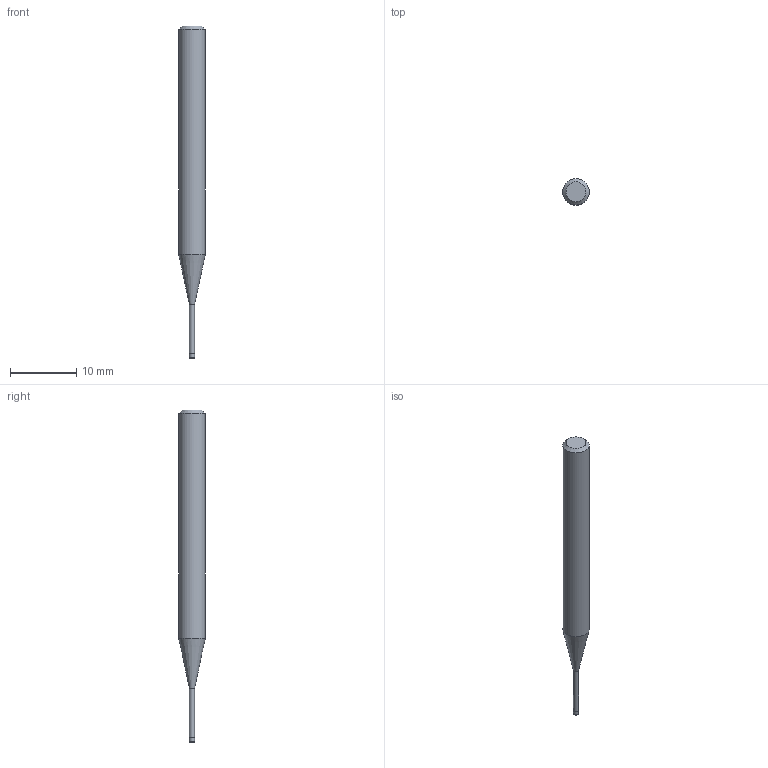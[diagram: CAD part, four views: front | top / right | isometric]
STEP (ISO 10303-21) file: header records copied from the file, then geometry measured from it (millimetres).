
FILE_DESCRIPTION((''),'2;1');
FILE_NAME('C:\Users\nsx150\AppData\Local\Temp\Mastercam 2021\17T8Q8S9EB\TEMP.step','2021-04-21T14:32:19',(''),(''),'STEP Write','Mastercam 2021 ... CNC Software, Inc.','');
FILE_SCHEMA(('AUTOMOTIVE_DESIGN'));
Length unit declared in the file: millimetre
Products named in the file (1): None
Bounding box: 4 x 4 x 50 mm (x, y, z)
Volume: 473.4 mm3; surface area: 519.4 mm2
Topology: 2 solids, 2 shells, 10 faces, 14 edges, 8 vertices
Faces by surface type: plane 4, cylinder 3, cone 2, torus 1
Full cylindrical faces by diameter (mm): 0.76 x1, 0.8 x1, 4 x1
Entity records: 232 total; most frequent: DIRECTION 40, CARTESIAN_POINT 28, AXIS2_PLACEMENT_3D 20, ORIENTED_EDGE 16, EDGE_LOOP 16, STYLED_ITEM 13, ADVANCED_FACE 10, FACE_BOUND 10
